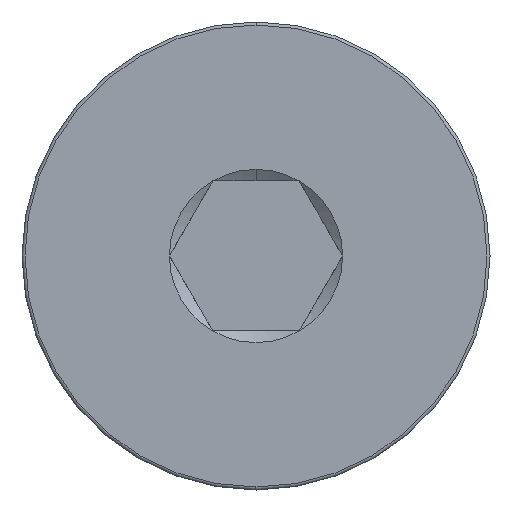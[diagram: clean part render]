
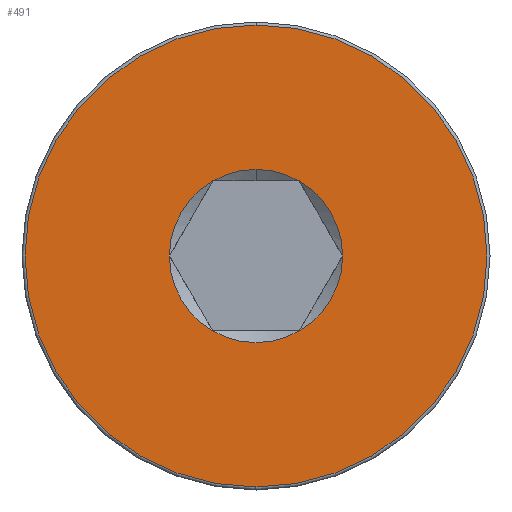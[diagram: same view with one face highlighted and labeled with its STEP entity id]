
A CAD part, left-side view. The second image highlights one B-rep face of the part: STEP entity #491.
In plain terms, the highlighted planar face has unit normal (-1, 0, 0).
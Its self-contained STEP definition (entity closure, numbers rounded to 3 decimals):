
#4 = CARTESIAN_POINT ( 'NONE',  ( 0., 1.443, 0. ) ) ;
#10 = EDGE_CURVE ( 'NONE', #56, #127, #682, .T. ) ;
#26 = EDGE_LOOP ( 'NONE', ( #685, #332, #761, #111, #77, #319, #179 ) ) ;
#35 = DIRECTION ( 'NONE',  ( 0., 0., 1. ) ) ;
#38 = AXIS2_PLACEMENT_3D ( 'NONE', #314, #440, #683 ) ;
#44 = CARTESIAN_POINT ( 'NONE',  ( 0., 0., 0. ) ) ;
#50 = CIRCLE ( 'NONE', #38, 1.443 ) ;
#56 = VERTEX_POINT ( 'NONE', #667 ) ;
#59 = VERTEX_POINT ( 'NONE', #106 ) ;
#63 = CIRCLE ( 'NONE', #408, 1.443 ) ;
#77 = ORIENTED_EDGE ( 'NONE', *, *, #201, .T. ) ;
#80 = VERTEX_POINT ( 'NONE', #4 ) ;
#106 = CARTESIAN_POINT ( 'NONE',  ( 0., -0.722, -1.25 ) ) ;
#111 = ORIENTED_EDGE ( 'NONE', *, *, #664, .T. ) ;
#127 = VERTEX_POINT ( 'NONE', #618 ) ;
#128 = DIRECTION ( 'NONE',  ( 0., 0., -1. ) ) ;
#138 = EDGE_CURVE ( 'NONE', #720, #56, #50, .T. ) ;
#146 = CARTESIAN_POINT ( 'NONE',  ( 0., 0., 0. ) ) ;
#151 = CARTESIAN_POINT ( 'NONE',  ( 0., 0., 0. ) ) ;
#163 = DIRECTION ( 'NONE',  ( 0., 0., -1. ) ) ;
#173 = DIRECTION ( 'NONE',  ( 0., 0., -1. ) ) ;
#176 = CARTESIAN_POINT ( 'NONE',  ( 0., 0., 0. ) ) ;
#179 = ORIENTED_EDGE ( 'NONE', *, *, #393, .T. ) ;
#201 = EDGE_CURVE ( 'NONE', #770, #59, #539, .T. ) ;
#233 = CIRCLE ( 'NONE', #294, 1.443 ) ;
#280 = FACE_OUTER_BOUND ( 'NONE', #534, .T. ) ;
#290 = DIRECTION ( 'NONE',  ( 1., 0., 0. ) ) ;
#294 = AXIS2_PLACEMENT_3D ( 'NONE', #757, #497, #128 ) ;
#314 = CARTESIAN_POINT ( 'NONE',  ( 0., 0., 0. ) ) ;
#319 = ORIENTED_EDGE ( 'NONE', *, *, #779, .T. ) ;
#330 = AXIS2_PLACEMENT_3D ( 'NONE', #784, #477, #163 ) ;
#332 = ORIENTED_EDGE ( 'NONE', *, *, #138, .T. ) ;
#339 = CARTESIAN_POINT ( 'NONE',  ( 0., 0., 0. ) ) ;
#343 = DIRECTION ( 'NONE',  ( 0., 0., 1. ) ) ;
#357 = VERTEX_POINT ( 'NONE', #502 ) ;
#369 = CIRCLE ( 'NONE', #486, 1.443 ) ;
#375 = CARTESIAN_POINT ( 'NONE',  ( 0., 0., 3.85 ) ) ;
#391 = CARTESIAN_POINT ( 'NONE',  ( 0., 0., 0. ) ) ;
#393 = EDGE_CURVE ( 'NONE', #755, #80, #795, .T. ) ;
#408 = AXIS2_PLACEMENT_3D ( 'NONE', #176, #666, #556 ) ;
#423 = CIRCLE ( 'NONE', #632, 3.85 ) ;
#440 = DIRECTION ( 'NONE',  ( 1., 0., 0. ) ) ;
#469 = ORIENTED_EDGE ( 'NONE', *, *, #478, .T. ) ;
#477 = DIRECTION ( 'NONE',  ( 1., 0., 0. ) ) ;
#478 = EDGE_CURVE ( 'NONE', #661, #357, #514, .T. ) ;
#479 = DIRECTION ( 'NONE',  ( 0., 0., 1. ) ) ;
#482 = EDGE_CURVE ( 'NONE', #357, #661, #423, .T. ) ;
#486 = AXIS2_PLACEMENT_3D ( 'NONE', #391, #640, #629 ) ;
#488 = CARTESIAN_POINT ( 'NONE',  ( 0., 0., 0. ) ) ;
#491 = ADVANCED_FACE ( 'NONE', ( #280, #538 ), #786, .T. ) ;
#497 = DIRECTION ( 'NONE',  ( 1., 0., 0. ) ) ;
#502 = CARTESIAN_POINT ( 'NONE',  ( 0., 0., -3.85 ) ) ;
#509 = AXIS2_PLACEMENT_3D ( 'NONE', #339, #586, #343 ) ;
#514 = CIRCLE ( 'NONE', #509, 3.85 ) ;
#533 = DIRECTION ( 'NONE',  ( 0., 0., -1. ) ) ;
#534 = EDGE_LOOP ( 'NONE', ( #469, #566 ) ) ;
#538 = FACE_BOUND ( 'NONE', #26, .T. ) ;
#539 = CIRCLE ( 'NONE', #617, 1.443 ) ;
#541 = EDGE_CURVE ( 'NONE', #80, #720, #63, .T. ) ;
#556 = DIRECTION ( 'NONE',  ( 0., 0., -1. ) ) ;
#566 = ORIENTED_EDGE ( 'NONE', *, *, #482, .T. ) ;
#586 = DIRECTION ( 'NONE',  ( -1., 0., 0. ) ) ;
#592 = DIRECTION ( 'NONE',  ( -1., 0., 0. ) ) ;
#617 = AXIS2_PLACEMENT_3D ( 'NONE', #488, #734, #173 ) ;
#618 = CARTESIAN_POINT ( 'NONE',  ( 0., -0.722, 1.25 ) ) ;
#629 = DIRECTION ( 'NONE',  ( 0., 0., -1. ) ) ;
#632 = AXIS2_PLACEMENT_3D ( 'NONE', #146, #649, #35 ) ;
#633 = CARTESIAN_POINT ( 'NONE',  ( 0., 0.722, 1.25 ) ) ;
#637 = CARTESIAN_POINT ( 'NONE',  ( 0., -1.443, 0. ) ) ;
#640 = DIRECTION ( 'NONE',  ( 1., 0., 0. ) ) ;
#649 = DIRECTION ( 'NONE',  ( -1., 0., 0. ) ) ;
#654 = AXIS2_PLACEMENT_3D ( 'NONE', #151, #592, #479 ) ;
#661 = VERTEX_POINT ( 'NONE', #375 ) ;
#664 = EDGE_CURVE ( 'NONE', #127, #770, #233, .T. ) ;
#666 = DIRECTION ( 'NONE',  ( 1., 0., 0. ) ) ;
#667 = CARTESIAN_POINT ( 'NONE',  ( 0., 0., 1.443 ) ) ;
#682 = CIRCLE ( 'NONE', #330, 1.443 ) ;
#683 = DIRECTION ( 'NONE',  ( 0., 0., -1. ) ) ;
#685 = ORIENTED_EDGE ( 'NONE', *, *, #541, .T. ) ;
#699 = CARTESIAN_POINT ( 'NONE',  ( 0., 0.722, -1.25 ) ) ;
#720 = VERTEX_POINT ( 'NONE', #633 ) ;
#734 = DIRECTION ( 'NONE',  ( 1., 0., 0. ) ) ;
#755 = VERTEX_POINT ( 'NONE', #699 ) ;
#757 = CARTESIAN_POINT ( 'NONE',  ( 0., 0., 0. ) ) ;
#761 = ORIENTED_EDGE ( 'NONE', *, *, #10, .T. ) ;
#770 = VERTEX_POINT ( 'NONE', #637 ) ;
#776 = AXIS2_PLACEMENT_3D ( 'NONE', #44, #290, #533 ) ;
#779 = EDGE_CURVE ( 'NONE', #59, #755, #369, .T. ) ;
#784 = CARTESIAN_POINT ( 'NONE',  ( 0., 0., 0. ) ) ;
#786 = PLANE ( 'NONE',  #654 ) ;
#795 = CIRCLE ( 'NONE', #776, 1.443 ) ;
